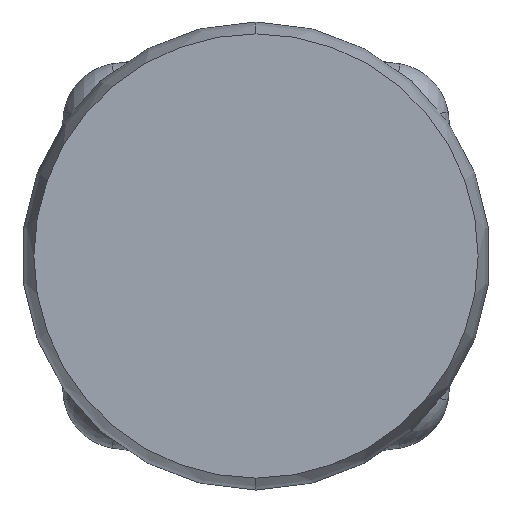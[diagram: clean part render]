
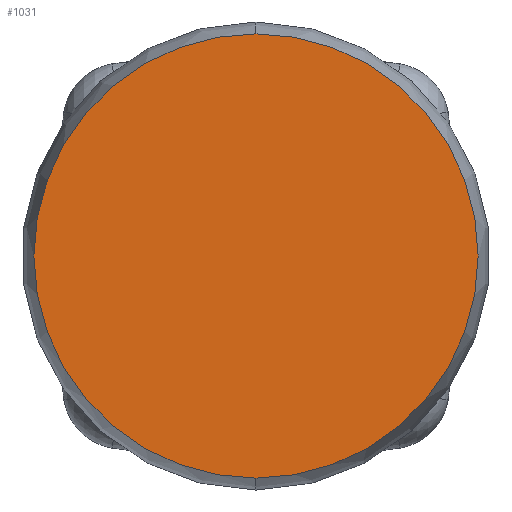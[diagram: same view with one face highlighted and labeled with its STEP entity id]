
A CAD part, left-side view. The second image highlights one B-rep face of the part: STEP entity #1031.
In plain terms, the highlighted planar face has unit normal (-1, 0, 0).
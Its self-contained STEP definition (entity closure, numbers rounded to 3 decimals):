
#217 = CARTESIAN_POINT ( 'NONE',  ( -1.75, 0.8, 0.759 ) ) ;
#242 = CIRCLE ( 'NONE', #359, 0.759 ) ;
#274 = CARTESIAN_POINT ( 'NONE',  ( -1.75, 0.8, 0. ) ) ;
#359 = AXIS2_PLACEMENT_3D ( 'NONE', #1219, #1923, #1971 ) ;
#365 = EDGE_CURVE ( 'NONE', #1804, #1716, #242, .T. ) ;
#456 = DIRECTION ( 'NONE',  ( 0., 0., 1. ) ) ;
#742 = CARTESIAN_POINT ( 'NONE',  ( -1.75, 0.8, 0. ) ) ;
#777 = ORIENTED_EDGE ( 'NONE', *, *, #2247, .T. ) ;
#829 = EDGE_LOOP ( 'NONE', ( #1855, #777 ) ) ;
#1031 = ADVANCED_FACE ( 'NONE', ( #1854 ), #2158, .T. ) ;
#1219 = CARTESIAN_POINT ( 'NONE',  ( -1.75, 0.8, 0. ) ) ;
#1254 = DIRECTION ( 'NONE',  ( 0., 0., 1. ) ) ;
#1269 = DIRECTION ( 'NONE',  ( -1., 0., 0. ) ) ;
#1673 = AXIS2_PLACEMENT_3D ( 'NONE', #274, #2082, #456 ) ;
#1716 = VERTEX_POINT ( 'NONE', #2141 ) ;
#1782 = CIRCLE ( 'NONE', #1673, 0.759 ) ;
#1804 = VERTEX_POINT ( 'NONE', #217 ) ;
#1854 = FACE_OUTER_BOUND ( 'NONE', #829, .T. ) ;
#1855 = ORIENTED_EDGE ( 'NONE', *, *, #365, .T. ) ;
#1913 = AXIS2_PLACEMENT_3D ( 'NONE', #742, #1269, #1254 ) ;
#1923 = DIRECTION ( 'NONE',  ( -1., 0., 0. ) ) ;
#1971 = DIRECTION ( 'NONE',  ( 0., 0., 1. ) ) ;
#2082 = DIRECTION ( 'NONE',  ( -1., 0., 0. ) ) ;
#2141 = CARTESIAN_POINT ( 'NONE',  ( -1.75, 0.8, -0.759 ) ) ;
#2158 = PLANE ( 'NONE',  #1913 ) ;
#2247 = EDGE_CURVE ( 'NONE', #1716, #1804, #1782, .T. ) ;
